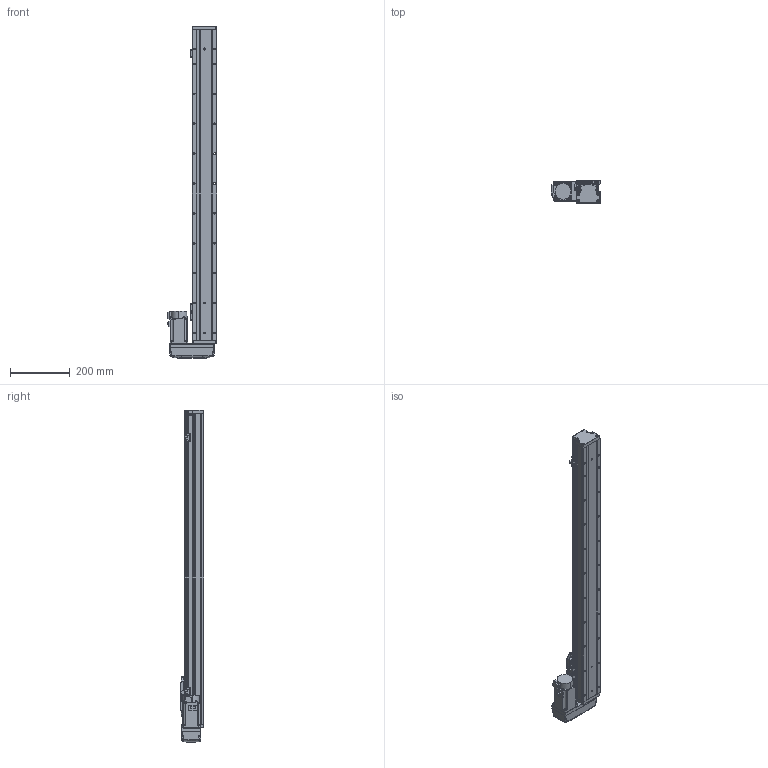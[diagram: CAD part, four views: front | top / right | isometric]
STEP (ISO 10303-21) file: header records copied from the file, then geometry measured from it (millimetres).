
FILE_DESCRIPTION (( 'STEP AP203' ), '1' );
FILE_NAME ('GTH8-850-BL-M20-C4.step', '2022-09-23T01:01:41', ( '微软用户' ), ( '微软中国' ), 'SwSTEP 2.0', 'SolidWorks 2020', '' );
FILE_SCHEMA (( 'CONFIG_CONTROL_DESIGN' ));
Length unit declared in the file: millimetre
Products named in the file (18): GTH8-850-BL-M20-C4; GTH50-024; GTH80-013; GTH50-023; GBT 70.3-M3℅6; GBT96.1-2002 3×0.8; GTH80-022; BTH-M3X5X6; GTH80-001_850; GBT 70.1-M3℅6; hg-kn43j_-s100_; GTH80-003; CTHA86-015-1_CTHA86-015-2; GBT 70.1-M4×16; GTH80-004; CTHA86-033_M40B; GTH80-028; GTH80-006
Assembly tree (57 placements, depth 2):
  GTH8-850-BL-M20-C4
    GTH80-001_850
    GTH80-003
    GTH80-004
    GTH80-006
    GTH80-013
    GBT 70.3-M3℅6  x4
    GTH80-022
    GBT 70.1-M3℅6  x14
    GBT 70.1-M4×16  x8
    GTH80-028  x2
    GTH50-024  x3
    GTH50-023  x3
    GBT96.1-2002 3×0.8  x6
    BTH-M3X5X6  x8
    hg-kn43j_-s100_
    CTHA86-015-1_CTHA86-015-2
    CTHA86-033_M40B
Bounding box: 164.8 x 78 x 1111 mm (x, y, z)
Volume: 5490836.8 mm3; surface area: 547481.9 mm2
Topology: 59 solids, 59 shells, 2252 faces, 5211 edges, 3195 vertices
Faces by surface type: plane 1187, cylinder 623, cone 260, torus 166, bspline 8, sphere 8
Entity records: 41366 total; most frequent: CARTESIAN_POINT 7265, DIRECTION 6733, ORIENTED_EDGE 6240, EDGE_CURVE 3120, AXIS2_PLACEMENT_3D 2361, LINE 2011, VECTOR 2011, VERTEX_POINT 1970
